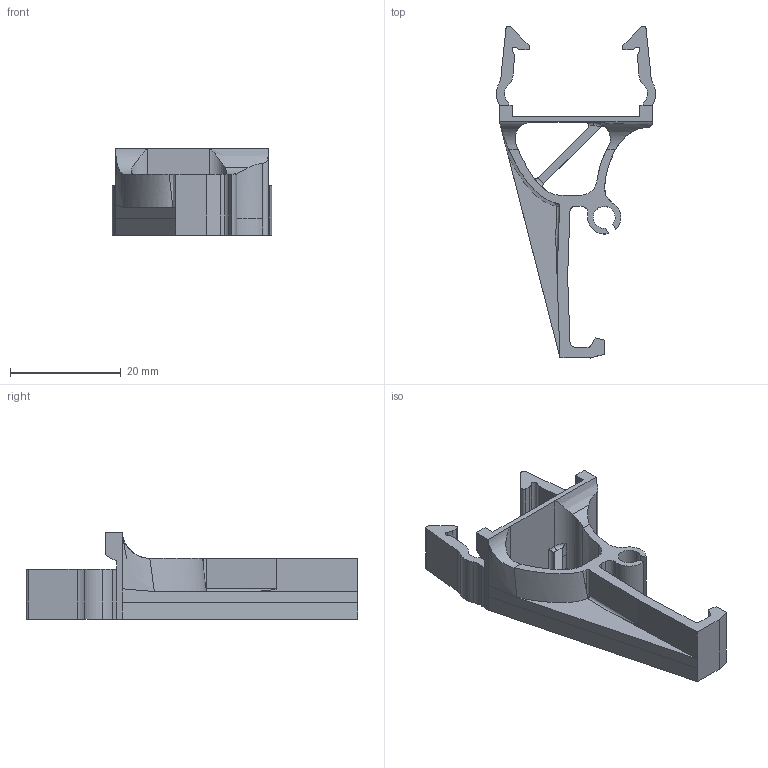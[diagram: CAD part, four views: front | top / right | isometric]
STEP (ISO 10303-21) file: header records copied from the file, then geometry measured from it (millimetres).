
FILE_DESCRIPTION(/* description */ (''),/* implementation_level */ '2;1');
FILE_NAME(/* name */ 'Revised Lifter Clip v3.step',/* time_stamp */ '2024-08-23T12:19:16-04:00',/* author */ (''),/* organization */ (''),/* preprocessor_version */ 'ST-DEVELOPER v20',/* originating_system */ 'Autodesk Translation Framework v13.14.0.145',/* authorisation */ '');
FILE_SCHEMA (('AUTOMOTIVE_DESIGN { 1 0 10303 214 3 1 1 }'));
Length unit declared in the file: millimetre
Products named in the file (3): Lifter Clip; Component2; part_object_id_2
Assembly tree (2 placements, depth 3):
  Lifter Clip
    Component2
      part_object_id_2
Bounding box: 28.81 x 59.86 x 15.62 mm (x, y, z)
Volume: 3652.2 mm3; surface area: 4259.2 mm2
Topology: 1 solids, 1 shells, 118 faces, 350 edges, 228 vertices
Faces by surface type: plane 50, cylinder 49, bspline 14, cone 3, torus 1, sphere 1
Entity records: 8319 total; most frequent: CARTESIAN_POINT 5121, ORIENTED_EDGE 692, DIRECTION 633, EDGE_CURVE 346, VERTEX_POINT 228, AXIS2_PLACEMENT_3D 213, LINE 207, VECTOR 207
